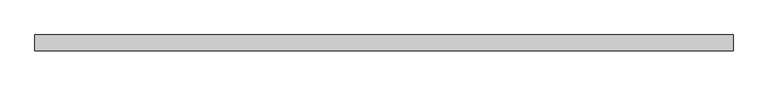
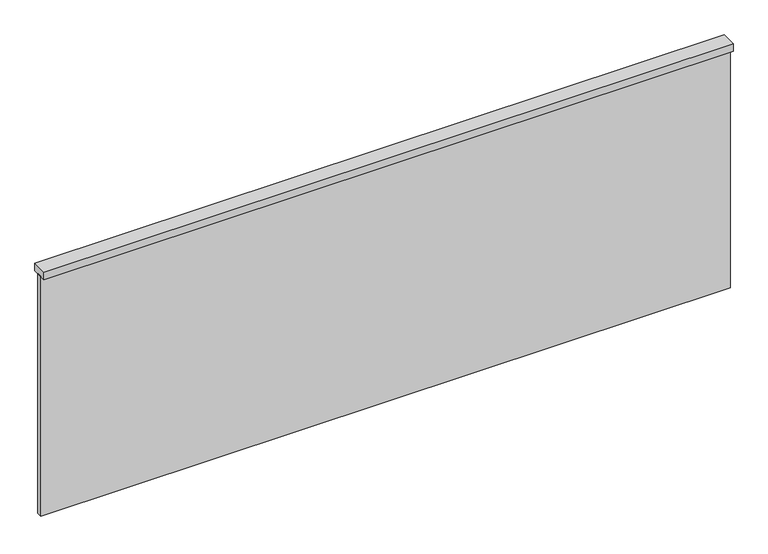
"""IFC4 building model written with IfcOpenShell, lengths in millimetres: proxy geometry, 防煙垂壁 : 可動防煙垂壁."""

from ifc_helpers import new_model, si_unit, frame, origin, place, context, project, spatial, polyline, outline, extrude, source, transform, mapped, element, save


def generic_models_8fc78ecc(model_context):
    return source(origin(), model_context, "Body", "SweptSolid", [
        extrude(outline(polyline([(1320.0, 5.0), (1320.0, -5.0), (0.0, -5.0), (0.0, 5.0), (1320.0, 5.0)])), frame((0.0, 0.0, 1800.0), z_axis=(0.0, 0.0, 1.0), x_axis=(1.0, 0.0, 0.0)), (0.0, 0.0, 1.0), 485.0),
        extrude(outline(polyline([(1320.0, 15.0), (1320.0, -15.0), (0.0, -15.0), (0.0, 15.0), (1320.0, 15.0)])), frame((0.0, 0.0, 2285.0), z_axis=(0.0, 0.0, 1.0), x_axis=(1.0, 0.0, 0.0)), (0.0, 0.0, 1.0), 15.0),
    ])


if __name__ == "__main__":
    model = new_model("IFC4")
    model_context = context("Model", 3, world=origin())
    ifc_project = project(units=[si_unit("LENGTHUNIT", "METRE", prefix="MILLI")], contexts=[model_context])
    site = spatial("IfcSite", under=ifc_project)
    building = spatial("IfcBuilding", under=site)
    placement = place(None, origin())
    generic_models_shape = generic_models_8fc78ecc(model_context)
    element("IfcBuildingElementProxy", 1, Name="防煙垂壁 : 可動防煙垂壁", ObjectType="防煙垂壁 : 可動防煙垂壁", at=placement, inside=building, context=model_context, shape_type="MappedRepresentation", body=[
        mapped(generic_models_shape, transform((0.0, 0.0, 0.0), x_axis=(1.0, 0.0, 0.0), y_axis=(0.0, 1.0, 0.0), z_axis=(0.0, 0.0, 1.0))),
    ])
    save(model, "model.ifc")
